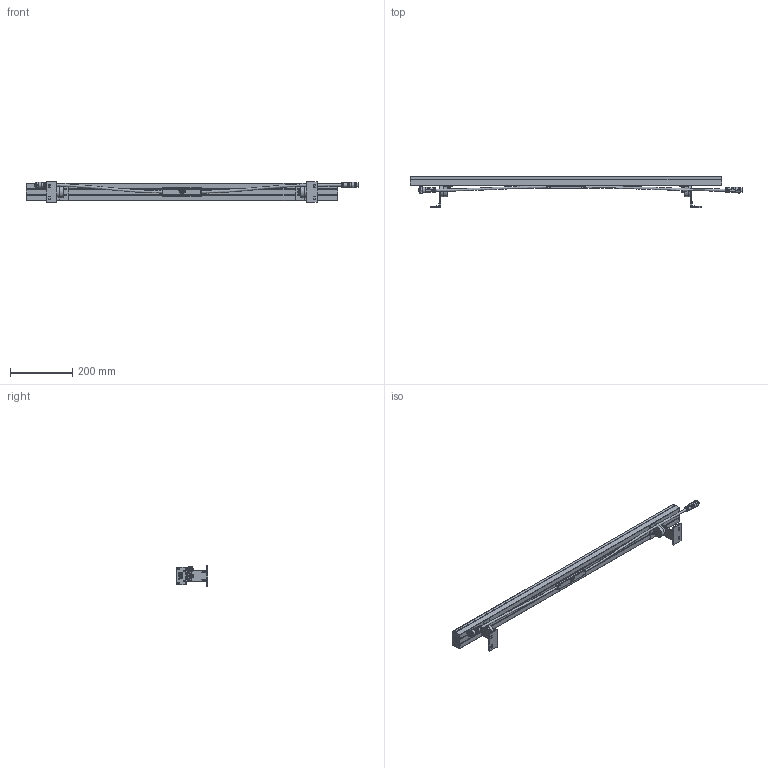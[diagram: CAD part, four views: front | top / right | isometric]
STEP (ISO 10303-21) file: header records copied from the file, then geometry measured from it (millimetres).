
FILE_DESCRIPTION (( 'STEP AP214' ), '1' );
FILE_NAME ('Linear G54 L1000 24 LEDs VDC.STEP', '2025-07-08T12:39:54', ( '' ), ( '' ), 'SwSTEP 2.0', 'SolidWorks 2025', '' );
FILE_SCHEMA (( 'AUTOMOTIVE_DESIGN' ));
Length unit declared in the file: millimetre
Products named in the file (8): Linear G54 - Body_L1000 24 LEDs; Part80^Linear G54_L1000 24V; Linear G54 & G100 - VDC Bak_L1000 24V; M16 5p Female; Linear G54 & G100 - Feet fixed; Linear G54 & G100 - Feet free rotation; Linear G54 L1000 24 LEDs VDC; M16 5p Male
Assembly tree (7 placements, depth 2):
  Linear G54 L1000 24 LEDs VDC
    Linear G54 - Body_L1000 24 LEDs
    M16 5p Female
    M16 5p Male
    Part80^Linear G54_L1000 24V
    Linear G54 & G100 - VDC Bak_L1000 24V
    Linear G54 & G100 - Feet fixed
    Linear G54 & G100 - Feet free rotation
Bounding box: 1065.3 x 101.5 x 67.3 mm (x, y, z)
Volume: 1788881.4 mm3; surface area: 285102.2 mm2
Topology: 18 solids, 31 shells, 2821 faces, 6798 edges, 4171 vertices
Faces by surface type: plane 1525, cylinder 767, cone 186, torus 167, bspline 138, sphere 38
Full cylindrical faces by diameter (mm): 2.7 x4, 9.2 x1, 11.1 x1, 14.25 x1, 14.3 x1, 18 x1, 19 x24
Entity records: 102735 total; most frequent: CARTESIAN_POINT 30993, ORIENTED_EDGE 13370, DIRECTION 12442, EDGE_CURVE 6685, AXIS2_PLACEMENT_3D 4475, VERTEX_POINT 4159, LINE 3492, VECTOR 3492
